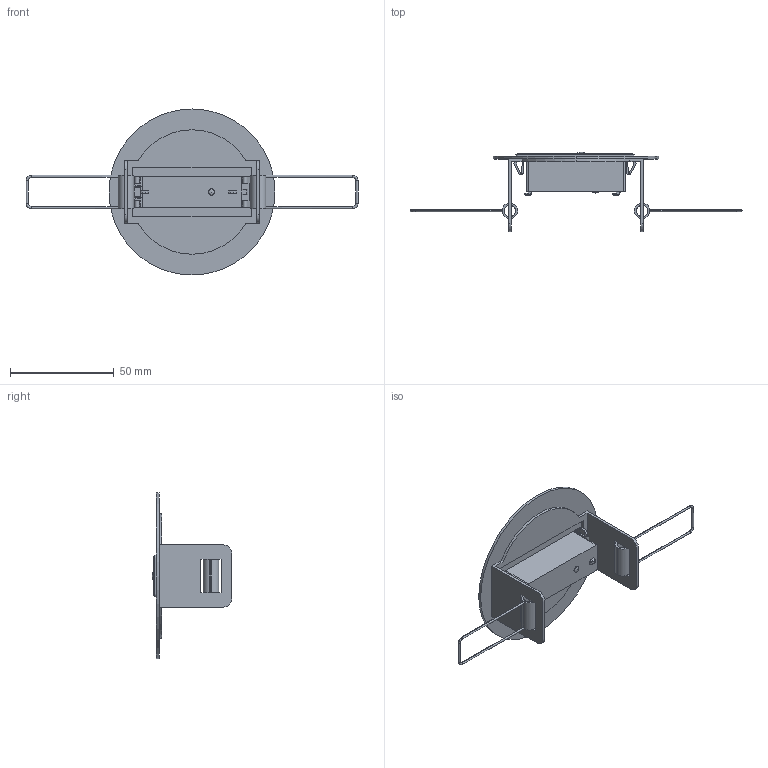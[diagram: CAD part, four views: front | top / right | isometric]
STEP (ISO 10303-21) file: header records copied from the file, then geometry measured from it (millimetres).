
FILE_DESCRIPTION (( 'STEP AP214' ), '1' );
FILE_NAME ('4237497swm000.step', '2020-08-10T12:30:40', ( 'OSRAM' ), ( 'OSRAM' ), 'SwSTEP 2.0', 'SolidWorks 2017', '' );
FILE_SCHEMA (( 'AUTOMOTIVE_DESIGN' ));
Length unit declared in the file: millimetre
Products named in the file (1): 4237497swm000
Bounding box: 160 x 38.2 x 80 mm (x, y, z)
Volume: 24549 mm3; surface area: 19960.6 mm2
Topology: 1 solids, 3 shells, 465 faces, 1318 edges, 846 vertices
Faces by surface type: plane 226, bspline 92, cylinder 80, cone 41, torus 20, sphere 6
Entity records: 18663 total; most frequent: CARTESIAN_POINT 7033, ORIENTED_EDGE 2624, DIRECTION 2141, EDGE_CURVE 1312, VERTEX_POINT 842, VECTOR 777, LINE 777, AXIS2_PLACEMENT_3D 682
